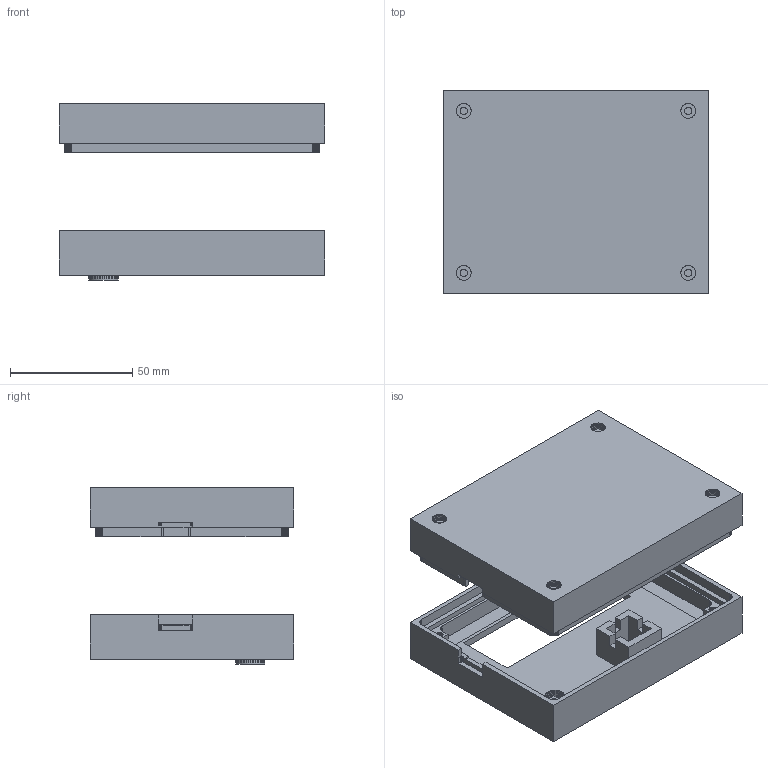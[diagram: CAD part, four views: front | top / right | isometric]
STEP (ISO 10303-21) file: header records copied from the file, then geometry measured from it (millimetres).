
FILE_DESCRIPTION(('FreeCAD Model'),'2;1');
FILE_NAME( '/home/lpatiny/git/hackuarium/simple-spectro/CAD/alu/full.step', '2017-10-22T10:21:11',('Author'),(''), 'Open CASCADE STEP processor 6.8','FreeCAD','Unknown');
FILE_SCHEMA(('AUTOMOTIVE_DESIGN_CC2 { 1 2 10303 214 -1 1 5 4 }'));
Length unit declared in the file: millimetre
Products named in the file (2): ASSEMBLY; Group004
Assembly tree (1 placements, depth 2):
  ASSEMBLY
    Group004
Bounding box: 108.7 x 83.2 x 72 mm (x, y, z)
Volume: 171312.5 mm3; surface area: 59810.4 mm2
Topology: 2 solids, 2 shells, 1717 faces, 4924 edges, 3228 vertices
Faces by surface type: plane 1717
Entity records: 116950 total; most frequent: CARTESIAN_POINT 21561, DIRECTION 16368, LINE 12930, VECTOR 12930, ORIENTED_EDGE 9848, PCURVE 9848, DEFINITIONAL_REPRESENTATION 9848, EDGE_CURVE 4924
